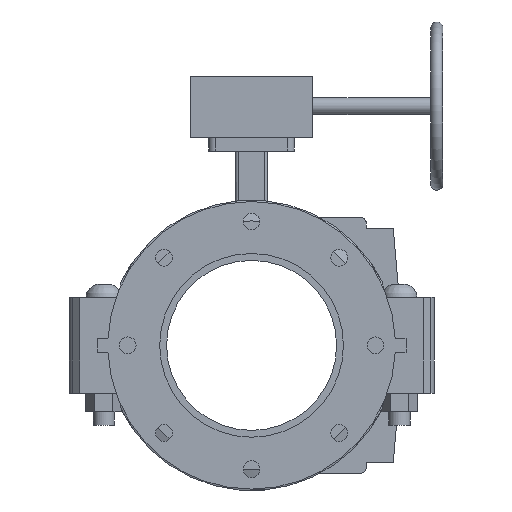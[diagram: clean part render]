
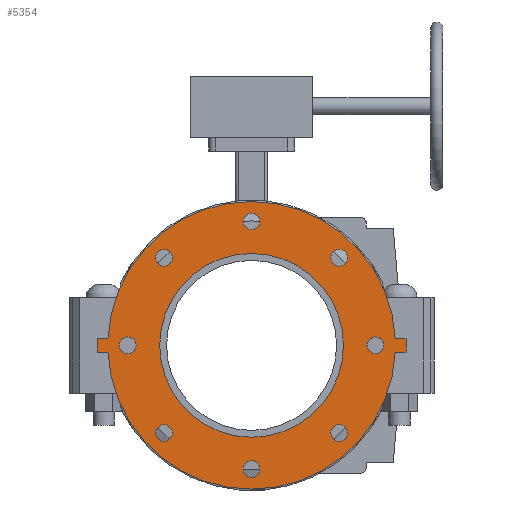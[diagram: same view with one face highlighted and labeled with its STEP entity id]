
A CAD part, front view. The second image highlights one B-rep face of the part: STEP entity #5354.
In plain terms, the highlighted planar face has unit normal (0, -1, 0) as drawn and (0, 0, -1) by its records, which use the part's own axes.
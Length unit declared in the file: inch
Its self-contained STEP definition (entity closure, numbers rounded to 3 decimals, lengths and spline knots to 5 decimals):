
#155=FACE_BOUND('',#722,.T.);
#156=FACE_BOUND('',#723,.T.);
#157=FACE_BOUND('',#724,.T.);
#158=FACE_BOUND('',#725,.T.);
#159=FACE_BOUND('',#726,.T.);
#160=FACE_BOUND('',#727,.T.);
#161=FACE_BOUND('',#728,.T.);
#162=FACE_BOUND('',#729,.T.);
#163=FACE_BOUND('',#730,.T.);
#234=PLANE('',#5862);
#418=FACE_OUTER_BOUND('',#721,.T.);
#721=EDGE_LOOP('',(#3505,#3506,#3507,#3508,#3509,#3510,#3511,#3512));
#722=EDGE_LOOP('',(#3513));
#723=EDGE_LOOP('',(#3514));
#724=EDGE_LOOP('',(#3515));
#725=EDGE_LOOP('',(#3516));
#726=EDGE_LOOP('',(#3517));
#727=EDGE_LOOP('',(#3518));
#728=EDGE_LOOP('',(#3519));
#729=EDGE_LOOP('',(#3520));
#730=EDGE_LOOP('',(#3521));
#1082=LINE('',#8207,#1455);
#1085=LINE('',#8213,#1458);
#1088=LINE('',#8218,#1461);
#1090=LINE('',#8223,#1463);
#1094=LINE('',#8230,#1467);
#1096=LINE('',#8233,#1469);
#1455=VECTOR('',#6551,0.3937);
#1458=VECTOR('',#6556,0.3937);
#1461=VECTOR('',#6561,0.3937);
#1463=VECTOR('',#6565,0.3937);
#1467=VECTOR('',#6571,0.3937);
#1469=VECTOR('',#6575,0.3937);
#1816=CIRCLE('',#5824,0.395);
#1818=CIRCLE('',#5827,0.395);
#1820=CIRCLE('',#5830,0.395);
#1822=CIRCLE('',#5833,0.395);
#1824=CIRCLE('',#5836,0.395);
#1826=CIRCLE('',#5839,0.395);
#1828=CIRCLE('',#5842,0.395);
#1830=CIRCLE('',#5845,0.395);
#1831=CIRCLE('',#5847,4.3125);
#1833=CIRCLE('',#5850,6.75);
#1836=CIRCLE('',#5854,6.75);
#2146=VERTEX_POINT('',#8136);
#2148=VERTEX_POINT('',#8142);
#2150=VERTEX_POINT('',#8148);
#2152=VERTEX_POINT('',#8154);
#2154=VERTEX_POINT('',#8160);
#2156=VERTEX_POINT('',#8166);
#2158=VERTEX_POINT('',#8172);
#2160=VERTEX_POINT('',#8178);
#2161=VERTEX_POINT('',#8182);
#2163=VERTEX_POINT('',#8188);
#2165=VERTEX_POINT('',#8191);
#2167=VERTEX_POINT('',#8197);
#2170=VERTEX_POINT('',#8202);
#2171=VERTEX_POINT('',#8206);
#2173=VERTEX_POINT('',#8212);
#2175=VERTEX_POINT('',#8221);
#2176=VERTEX_POINT('',#8222);
#2666=EDGE_CURVE('',#2146,#2146,#1816,.T.);
#2669=EDGE_CURVE('',#2148,#2148,#1818,.T.);
#2672=EDGE_CURVE('',#2150,#2150,#1820,.T.);
#2675=EDGE_CURVE('',#2152,#2152,#1822,.T.);
#2678=EDGE_CURVE('',#2154,#2154,#1824,.T.);
#2681=EDGE_CURVE('',#2156,#2156,#1826,.T.);
#2684=EDGE_CURVE('',#2158,#2158,#1828,.T.);
#2687=EDGE_CURVE('',#2160,#2160,#1830,.T.);
#2688=EDGE_CURVE('',#2161,#2161,#1831,.T.);
#2692=EDGE_CURVE('',#2163,#2165,#1833,.T.);
#2698=EDGE_CURVE('',#2170,#2167,#1836,.T.);
#2699=EDGE_CURVE('',#2165,#2171,#1082,.T.);
#2702=EDGE_CURVE('',#2173,#2170,#1085,.T.);
#2705=EDGE_CURVE('',#2171,#2173,#1088,.T.);
#2707=EDGE_CURVE('',#2175,#2176,#1090,.T.);
#2711=EDGE_CURVE('',#2167,#2175,#1094,.T.);
#2713=EDGE_CURVE('',#2176,#2163,#1096,.T.);
#3505=ORIENTED_EDGE('',*,*,#2713,.F.);
#3506=ORIENTED_EDGE('',*,*,#2707,.F.);
#3507=ORIENTED_EDGE('',*,*,#2711,.F.);
#3508=ORIENTED_EDGE('',*,*,#2698,.F.);
#3509=ORIENTED_EDGE('',*,*,#2702,.F.);
#3510=ORIENTED_EDGE('',*,*,#2705,.F.);
#3511=ORIENTED_EDGE('',*,*,#2699,.F.);
#3512=ORIENTED_EDGE('',*,*,#2692,.F.);
#3513=ORIENTED_EDGE('',*,*,#2666,.T.);
#3514=ORIENTED_EDGE('',*,*,#2669,.T.);
#3515=ORIENTED_EDGE('',*,*,#2672,.T.);
#3516=ORIENTED_EDGE('',*,*,#2675,.T.);
#3517=ORIENTED_EDGE('',*,*,#2678,.T.);
#3518=ORIENTED_EDGE('',*,*,#2681,.T.);
#3519=ORIENTED_EDGE('',*,*,#2684,.T.);
#3520=ORIENTED_EDGE('',*,*,#2687,.T.);
#3521=ORIENTED_EDGE('',*,*,#2688,.T.);
#5354=ADVANCED_FACE('',(#418,#155,#156,#157,#158,#159,#160,#161,#162,#163),
#234,.F.);
#5824=AXIS2_PLACEMENT_3D('',#8138,#6475,#6476);
#5827=AXIS2_PLACEMENT_3D('',#8144,#6482,#6483);
#5830=AXIS2_PLACEMENT_3D('',#8150,#6489,#6490);
#5833=AXIS2_PLACEMENT_3D('',#8156,#6496,#6497);
#5836=AXIS2_PLACEMENT_3D('',#8162,#6503,#6504);
#5839=AXIS2_PLACEMENT_3D('',#8168,#6510,#6511);
#5842=AXIS2_PLACEMENT_3D('',#8174,#6517,#6518);
#5845=AXIS2_PLACEMENT_3D('',#8180,#6524,#6525);
#5847=AXIS2_PLACEMENT_3D('',#8183,#6528,#6529);
#5850=AXIS2_PLACEMENT_3D('',#8192,#6536,#6537);
#5854=AXIS2_PLACEMENT_3D('',#8204,#6547,#6548);
#5862=AXIS2_PLACEMENT_3D('',#8236,#6579,#6580);
#6475=DIRECTION('center_axis',(0.,0.,1.));
#6476=DIRECTION('ref_axis',(-0.707,-0.707,0.));
#6482=DIRECTION('center_axis',(0.,0.,1.));
#6483=DIRECTION('ref_axis',(-1.,0.,0.));
#6489=DIRECTION('center_axis',(0.,0.,1.));
#6490=DIRECTION('ref_axis',(-0.707,0.707,0.));
#6496=DIRECTION('center_axis',(0.,0.,1.));
#6497=DIRECTION('ref_axis',(0.,1.,0.));
#6503=DIRECTION('center_axis',(0.,0.,1.));
#6504=DIRECTION('ref_axis',(0.707,0.707,0.));
#6510=DIRECTION('center_axis',(0.,0.,1.));
#6511=DIRECTION('ref_axis',(1.,0.,0.));
#6517=DIRECTION('center_axis',(0.,0.,1.));
#6518=DIRECTION('ref_axis',(0.707,-0.707,0.));
#6524=DIRECTION('center_axis',(0.,0.,1.));
#6525=DIRECTION('ref_axis',(0.,-1.,0.));
#6528=DIRECTION('center_axis',(0.,0.,1.));
#6529=DIRECTION('ref_axis',(0.,-1.,0.));
#6536=DIRECTION('center_axis',(0.,0.,1.));
#6537=DIRECTION('ref_axis',(0.,1.,0.));
#6547=DIRECTION('center_axis',(0.,0.,1.));
#6548=DIRECTION('ref_axis',(0.,1.,0.));
#6551=DIRECTION('',(0.,-1.,0.));
#6556=DIRECTION('',(0.,1.,0.));
#6561=DIRECTION('',(1.,0.,0.));
#6565=DIRECTION('',(-1.,0.,0.));
#6571=DIRECTION('',(0.,1.,0.));
#6575=DIRECTION('',(0.,-1.,0.));
#6579=DIRECTION('center_axis',(0.,0.,1.));
#6580=DIRECTION('ref_axis',(0.,1.,0.));
#8136=CARTESIAN_POINT('',(-3.83252,4.39113,0.));
#8138=CARTESIAN_POINT('Origin',(-4.11183,4.11183,0.));
#8142=CARTESIAN_POINT('',(0.395,5.815,0.));
#8144=CARTESIAN_POINT('Origin',(0.,5.815,0.));
#8148=CARTESIAN_POINT('',(4.39113,3.83252,0.));
#8150=CARTESIAN_POINT('Origin',(4.11183,4.11183,0.));
#8154=CARTESIAN_POINT('',(5.815,-0.395,0.));
#8156=CARTESIAN_POINT('Origin',(5.815,0.,0.));
#8160=CARTESIAN_POINT('',(3.83252,-4.39113,0.));
#8162=CARTESIAN_POINT('Origin',(4.11183,-4.11183,0.));
#8166=CARTESIAN_POINT('',(-0.395,-5.815,0.));
#8168=CARTESIAN_POINT('Origin',(0.,-5.815,0.));
#8172=CARTESIAN_POINT('',(-4.39113,-3.83252,0.));
#8174=CARTESIAN_POINT('Origin',(-4.11183,-4.11183,0.));
#8178=CARTESIAN_POINT('',(-5.815,0.395,0.));
#8180=CARTESIAN_POINT('Origin',(-5.815,0.,0.));
#8182=CARTESIAN_POINT('',(0.,4.3125,0.));
#8183=CARTESIAN_POINT('Origin',(0.,0.,0.));
#8188=CARTESIAN_POINT('',(-0.32,6.74241,0.));
#8191=CARTESIAN_POINT('',(-0.32,-6.74241,0.));
#8192=CARTESIAN_POINT('Origin',(0.,0.,0.));
#8197=CARTESIAN_POINT('',(0.32,6.74241,0.));
#8202=CARTESIAN_POINT('',(0.32,-6.74241,0.));
#8204=CARTESIAN_POINT('Origin',(0.,0.,0.));
#8206=CARTESIAN_POINT('',(-0.32,-7.25,0.));
#8207=CARTESIAN_POINT('',(-0.32,-6.74241,0.));
#8212=CARTESIAN_POINT('',(0.32,-7.25,0.));
#8213=CARTESIAN_POINT('',(0.32,-7.25,0.));
#8218=CARTESIAN_POINT('',(-0.32,-7.25,0.));
#8221=CARTESIAN_POINT('',(0.32,7.25,0.));
#8222=CARTESIAN_POINT('',(-0.32,7.25,0.));
#8223=CARTESIAN_POINT('',(0.32,7.25,0.));
#8230=CARTESIAN_POINT('',(0.32,6.74241,0.));
#8233=CARTESIAN_POINT('',(-0.32,7.25,0.));
#8236=CARTESIAN_POINT('Origin',(0.,7.01634,0.));
